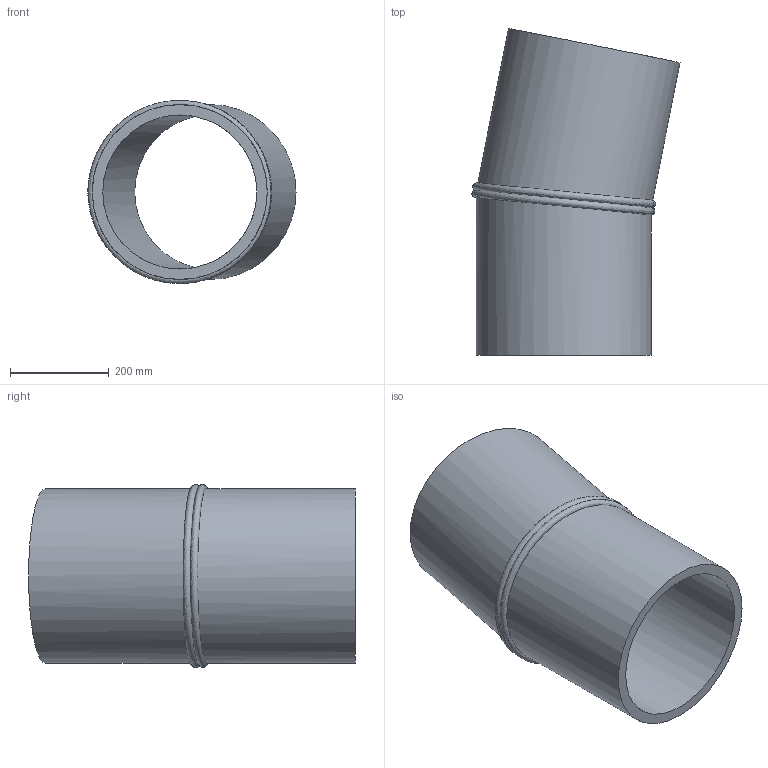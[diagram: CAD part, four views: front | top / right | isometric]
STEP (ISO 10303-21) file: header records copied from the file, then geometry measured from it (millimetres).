
FILE_DESCRIPTION(/* description */ ('Unknown'),/* implementation_level */ '2;1');
FILE_NAME(/* name */ 'Curva 11.25° a settore DE355 SDR17',/* time_stamp */ '2022-07-22T14:56:24+02:00',/* author */ ('Unknown'),/* organization */ ('Unknown'),/* preprocessor_version */ 'ST-DEVELOPER v18.102',/* originating_system */ 'Solid Edge',/* authorisation */ 'Unknown');
FILE_SCHEMA (('AUTOMOTIVE_DESIGN {1 0 10303 214 3 1 1}'));
Length unit declared in the file: millimetre
Products named in the file (2): Curva 11.25° a settore DE355 SDR17; Tubo x Gomito 11.25° DE355 SDR17
Assembly tree (2 placements, depth 2):
  Curva 11.25° a settore DE355 SDR17
    Tubo x Gomito 11.25° DE355 SDR17  x2
Bounding box: 422.46 x 663.49 x 371.42 mm (x, y, z)
Volume: 14280226 mm3; surface area: 1445180.7 mm2
Topology: 2 solids, 2 shells, 10 faces, 20 edges, 14 vertices
Faces by surface type: cylinder 4, plane 4, bspline 2
Full cylindrical faces by diameter (mm): 312.8 x2, 355 x2
Entity records: 767 total; most frequent: CARTESIAN_POINT 630, DIRECTION 20, ORIENTED_EDGE 10, EDGE_LOOP 10, FACE_BOUND 10, AXIS2_PLACEMENT_3D 10, EDGE_CURVE 5, VERTEX_POINT 5
